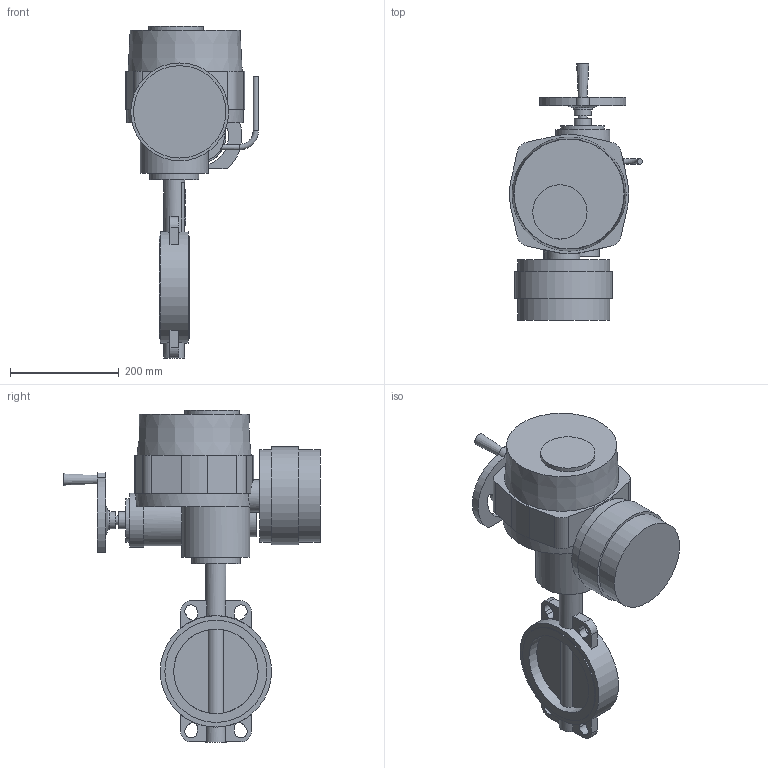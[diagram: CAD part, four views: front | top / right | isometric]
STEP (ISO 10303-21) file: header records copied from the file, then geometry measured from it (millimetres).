
FILE_DESCRIPTION(('STEP AP203'), '1');
FILE_NAME('Çàòâîð 017W.Z(ñòàëü) DN150+ÝÏ QT.A015', '', ('UNSPECIFIED'), ('UNSPECIFIED'), 'ASCON STEP Converter 1.6', 'ASCON Math Kernel', '');
FILE_SCHEMA(('CONFIG_CONTROL_DESIGN'));
Length unit declared in the file: millimetre
Bounding box: 244.71 x 472 x 611 mm (x, y, z)
Volume: 12634309.7 mm3; surface area: 589823.5 mm2
Topology: 1 solids, 1 shells, 812 faces, 2275 edges, 1515 vertices
Faces by surface type: cylinder 569, plane 239, cone 3, torus 1
Full cylindrical faces by diameter (mm): 6.7 x8, 10 x6, 16 x1, 32 x2, 35 x1, 38 x2, 60 x1, 80 x1, 90 x1, 100 x2, 125 x1, 155.6 x2, 170 x2, 180 x1, 188 x2, 205 x1
Entity records: 34183 total; most frequent: CARTESIAN_POINT 5748, DIRECTION 4990, ORIENTED_EDGE 4468, EDGE_CURVE 2234, AXIS2_PLACEMENT_3D 1968, VERTEX_POINT 1513, CIRCLE 1156, LINE 1054
